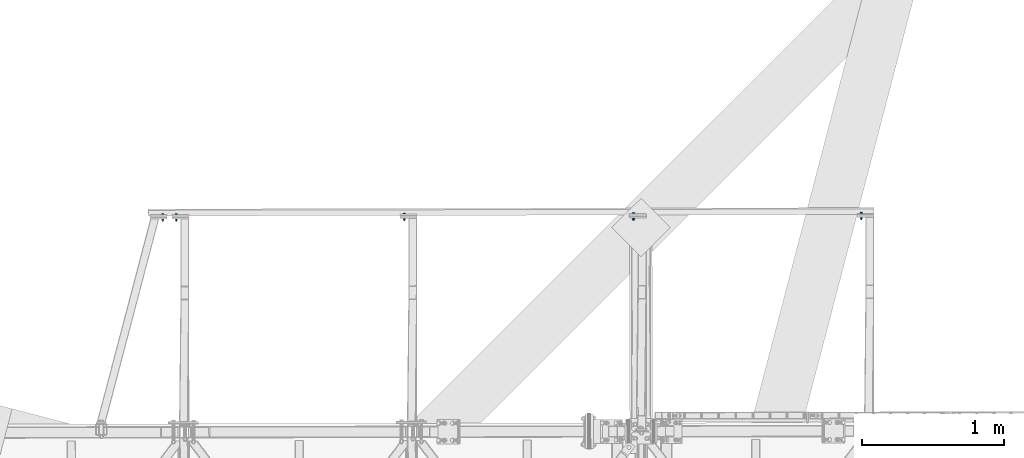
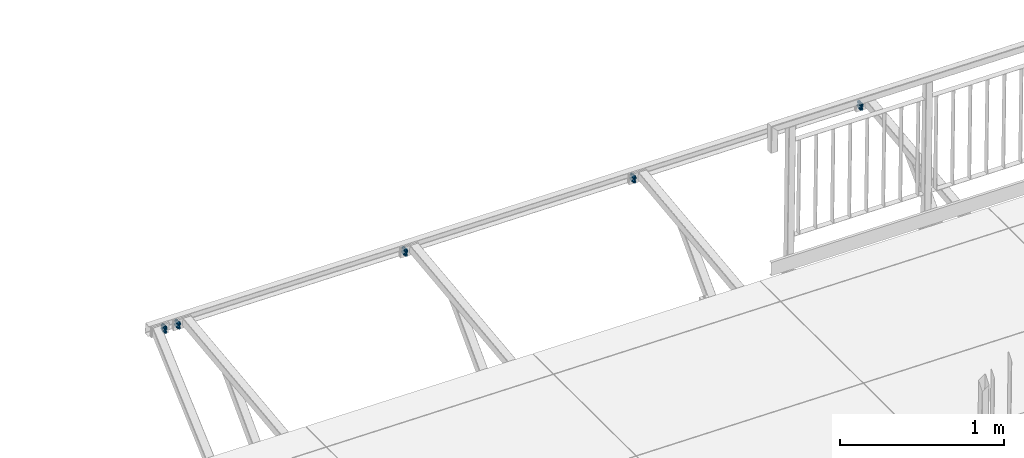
# One storey, part 167 of 169: 5 mechanical fasteners, 5 elements without a shape of their own.
"""IFC2X3 building model written with IfcOpenShell, lengths in millimetres."""

from ifc_helpers import new_model, si_unit, frame, frame_2d, origin_with_axes, origin_2d_with_axis, place, context, subcontext, project, spatial, polyline, circle_curve, parameter, trimmed, segment, composite_curve, circle, outline, extrude, source, transform, mapped, material, type_object, element, aggregate, save


model = new_model("IFC2X3")

# Units and contexts
model_context = context("Model", 3, precision=1e-05, world=origin_with_axes())
body_context = subcontext(model_context, "Body", "Model", "MODEL_VIEW")
ifc_project = project(units=[si_unit("LENGTHUNIT", "METRE", prefix="MILLI"), si_unit("AREAUNIT", "SQUARE_METRE"), si_unit("VOLUMEUNIT", "CUBIC_METRE"), si_unit("MASSUNIT", "GRAM", prefix="KILO"), si_unit("TIMEUNIT", "SECOND"), si_unit("PLANEANGLEUNIT", "RADIAN"), si_unit("SOLIDANGLEUNIT", "STERADIAN"), si_unit("THERMODYNAMICTEMPERATUREUNIT", "DEGREE_CELSIUS"), si_unit("LUMINOUSINTENSITYUNIT", "LUMEN")], contexts=[model_context])

# Site, building, storey
site_placement = place(None, origin_with_axes())
site = spatial("IfcSite", under=ifc_project, at=site_placement, Name="Undefined", CompositionType="ELEMENT")
building_placement = place(site_placement, origin_with_axes())
building = spatial("IfcBuilding", under=site, at=building_placement, Name="Undefined", CompositionType="ELEMENT")
storey_placement = place(building_placement, origin_with_axes())
storey = spatial("IfcBuildingStorey", under=building, at=storey_placement, Name="Undefined", CompositionType="ELEMENT", Elevation=0.0)

# Assembly, mechanical fastener
assembly_1_placement = place(storey_placement, origin_with_axes())
assembly_1 = element("IfcElementAssembly", 1, at=assembly_1_placement, inside=storey, Name="Steel Assembly", AssemblyPlace="NOTDEFINED", PredefinedType="RIGID_FRAME")
ifc_material = material(Name="Undefined")
discrete_accessory_type = type_object("IfcDiscreteAccessoryType", Name="Bolt assembly")
shared_shape_1 = source(origin_with_axes(), body_context, "Body", "SweptSolid", [
    extrude(circle(Radius=7.5, at=origin_2d_with_axis()), frame((0.0, -10.3999999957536, 0.0), z_axis=(0.0, 1.0, 0.0), x_axis=(1.0, 0.0, 0.0)), (0.0, 0.0, 1.0), 10.0),
    extrude(outline(composite_curve([segment(polyline([(7.5, 7.5), (7.5, -7.5)]), True, "CONTINUOUS"), segment(trimmed(circle_curve(frame_2d((0.0, -7.5), x_axis=(1.0, 0.0)), 7.5), [parameter(0.0)], [parameter(3.14159265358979)], False, "PARAMETER"), True, "CONTINUOUS"), segment(polyline([(-7.5, -7.5), (-7.5, 7.5)]), True, "CONTINUOUS"), segment(trimmed(circle_curve(frame_2d((0.0, 7.5), x_axis=(-1.0, 0.0)), 7.5), [parameter(0.0)], [parameter(3.14159265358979)], False, "PARAMETER"), True, "DISCONTINUOUS")], self_intersect=False)), frame((0.0, 0.400000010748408, 0.0), z_axis=(0.0, 1.0, 0.0), x_axis=(1.0, 0.0, 0.0)), (0.0, 0.0, 1.0), 10.1),
    extrude(outline(polyline([(10.39230484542, 0.0), (5.19615242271, 9.00000000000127), (-5.19615242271, 9.00000000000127), (-10.39230484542, 0.0), (-5.19615242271, -9.00000000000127), (5.19615242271, -9.00000000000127), (10.39230484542, 0.0)])), frame((0.0, -20.9999999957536, 0.0), z_axis=(0.0, 1.0, 0.0), x_axis=(1.0, 0.0, 0.0)), (0.0, 0.0, 1.0), 7.5),
    extrude(circle(Radius=6.0, at=origin_2d_with_axis()), frame((0.0, -13.4999999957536, 0.0), z_axis=(0.0, 1.0, 0.0), x_axis=(1.0, 0.0, 0.0)), (0.0, 0.0, 1.0), 45.0),
    extrude(circle(Radius=12.0, at=origin_2d_with_axis()), frame((0.0, -13.4999999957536, 0.0), z_axis=(0.0, 1.0, 0.0), x_axis=(1.0, 0.0, 0.0)), (0.0, 0.0, 1.0), 3.0),
    extrude(circle(Radius=12.0, at=origin_2d_with_axis()), frame((0.0, 10.500000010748, 0.0), z_axis=(0.0, 1.0, 0.0), x_axis=(1.0, 0.0, 0.0)), (0.0, 0.0, 1.0), 3.0),
    extrude(outline(polyline([(10.96965511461, 0.0), (5.484827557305, 9.50000000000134), (-5.484827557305, 9.50000000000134), (-10.96965511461, 0.0), (-5.484827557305, -9.50000000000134), (5.484827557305, -9.50000000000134), (10.96965511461, 0.0)])), frame((0.0, 13.500000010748, 0.0), z_axis=(0.0, 1.0, 0.0), x_axis=(1.0, 0.0, 0.0)), (0.0, 0.0, 1.0), 10.0),
])
mechanical_fastener_1_placement = place(assembly_1_placement, frame((6126.03816421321, 3765.11440507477, 13915.3565940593), z_axis=(-0.999917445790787, -0.00186469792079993, 0.0127131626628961), x_axis=(-0.0128442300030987, 0.117575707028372, -0.992980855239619)))
mechanical_fastener_1 = element("IfcMechanicalFastener", 2, at=mechanical_fastener_1_placement, type_object=discrete_accessory_type, material=ifc_material, Name="Bolt assembly", NominalDiameter=12.0, NominalLength=45.0, context=body_context, shape_type="MappedRepresentation", body=[
    mapped(shared_shape_1, transform((35.0000000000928, 4.54747350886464e-11, 60.0000000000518))),
    mapped(shared_shape_1, transform((65.0000000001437, 6.18456397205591e-11, 60.0000000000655))),
])
aggregate(assembly_1, [mechanical_fastener_1])

assembly_2_placement = place(storey_placement, origin_with_axes())
assembly_2 = element("IfcElementAssembly", 3, at=assembly_2_placement, inside=storey, Name="Steel Assembly", AssemblyPlace="NOTDEFINED", PredefinedType="RIGID_FRAME")
shared_shape_2 = source(origin_with_axes(), body_context, "Body", "SweptSolid", [
    extrude(circle(Radius=7.5, at=origin_2d_with_axis()), frame((0.0, -10.3999999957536, 0.0), z_axis=(0.0, 1.0, 0.0), x_axis=(1.0, 0.0, 0.0)), (0.0, 0.0, 1.0), 10.0),
    extrude(outline(composite_curve([segment(polyline([(7.5, 7.5), (7.5, -7.5)]), True, "CONTINUOUS"), segment(trimmed(circle_curve(frame_2d((0.0, -7.5), x_axis=(1.0, 0.0)), 7.5), [parameter(0.0)], [parameter(3.14159265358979)], False, "PARAMETER"), True, "CONTINUOUS"), segment(polyline([(-7.5, -7.5), (-7.5, 7.5)]), True, "CONTINUOUS"), segment(trimmed(circle_curve(frame_2d((0.0, 7.5), x_axis=(-1.0, 0.0)), 7.5), [parameter(0.0)], [parameter(3.14159265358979)], False, "PARAMETER"), True, "DISCONTINUOUS")], self_intersect=False)), frame((0.0, 0.400000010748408, 0.0), z_axis=(0.0, 1.0, 0.0), x_axis=(1.0, 0.0, 0.0)), (0.0, 0.0, 1.0), 10.1),
    extrude(outline(polyline([(10.39230484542, 0.0), (5.19615242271, 9.00000000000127), (-5.19615242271, 9.00000000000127), (-10.39230484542, 0.0), (-5.19615242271, -9.00000000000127), (5.19615242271, -9.00000000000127), (10.39230484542, 0.0)])), frame((0.0, -20.9999999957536, 0.0), z_axis=(0.0, 1.0, 0.0), x_axis=(1.0, 0.0, 0.0)), (0.0, 0.0, 1.0), 7.5),
    extrude(circle(Radius=6.0, at=origin_2d_with_axis()), frame((0.0, -13.4999999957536, 0.0), z_axis=(0.0, 1.0, 0.0), x_axis=(1.0, 0.0, 0.0)), (0.0, 0.0, 1.0), 45.0),
    extrude(circle(Radius=12.0, at=origin_2d_with_axis()), frame((0.0, -13.4999999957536, 0.0), z_axis=(0.0, 1.0, 0.0), x_axis=(1.0, 0.0, 0.0)), (0.0, 0.0, 1.0), 3.0),
    extrude(circle(Radius=12.0, at=origin_2d_with_axis()), frame((0.0, 10.500000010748, 0.0), z_axis=(0.0, 1.0, 0.0), x_axis=(1.0, 0.0, 0.0)), (0.0, 0.0, 1.0), 3.0),
    extrude(outline(polyline([(10.96965511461, 0.0), (5.484827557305, 9.50000000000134), (-5.484827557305, 9.50000000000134), (-10.96965511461, 0.0), (-5.484827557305, -9.50000000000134), (5.484827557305, -9.50000000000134), (10.96965511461, 0.0)])), frame((0.0, 13.500000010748, 0.0), z_axis=(0.0, 1.0, 0.0), x_axis=(1.0, 0.0, 0.0)), (0.0, 0.0, 1.0), 10.0),
])
mechanical_fastener_2_placement = place(assembly_2_placement, frame((4515.17115900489, 3762.11037659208, 13935.8374980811), z_axis=(-0.999917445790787, -0.00186469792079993, 0.0127131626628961), x_axis=(-0.0128442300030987, 0.117575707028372, -0.992980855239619)))
mechanical_fastener_2 = element("IfcMechanicalFastener", 4, at=mechanical_fastener_2_placement, type_object=discrete_accessory_type, material=ifc_material, Name="Bolt assembly", NominalDiameter=12.0, NominalLength=45.0, context=body_context, shape_type="MappedRepresentation", body=[
    mapped(shared_shape_2, transform((35.0000000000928, 4.54747350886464e-11, 60.0000000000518))),
    mapped(shared_shape_2, transform((65.0000000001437, 6.18456397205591e-11, 60.0000000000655))),
])
aggregate(assembly_2, [mechanical_fastener_2])

assembly_3_placement = place(storey_placement, origin_with_axes())
assembly_3 = element("IfcElementAssembly", 5, at=assembly_3_placement, inside=storey, Name="Steel Assembly", AssemblyPlace="NOTDEFINED", PredefinedType="RIGID_FRAME")
shared_shape_3 = source(origin_with_axes(), body_context, "Body", "SweptSolid", [
    extrude(circle(Radius=7.5, at=origin_2d_with_axis()), frame((0.0, -10.3999999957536, 0.0), z_axis=(0.0, 1.0, 0.0), x_axis=(1.0, 0.0, 0.0)), (0.0, 0.0, 1.0), 10.0),
    extrude(outline(composite_curve([segment(polyline([(7.5, 7.5), (7.5, -7.5)]), True, "CONTINUOUS"), segment(trimmed(circle_curve(frame_2d((0.0, -7.5), x_axis=(1.0, 0.0)), 7.5), [parameter(0.0)], [parameter(3.14159265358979)], False, "PARAMETER"), True, "CONTINUOUS"), segment(polyline([(-7.5, -7.5), (-7.5, 7.5)]), True, "CONTINUOUS"), segment(trimmed(circle_curve(frame_2d((0.0, 7.5), x_axis=(-1.0, 0.0)), 7.5), [parameter(0.0)], [parameter(3.14159265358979)], False, "PARAMETER"), True, "DISCONTINUOUS")], self_intersect=False)), frame((0.0, 0.400000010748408, 0.0), z_axis=(0.0, 1.0, 0.0), x_axis=(1.0, 0.0, 0.0)), (0.0, 0.0, 1.0), 10.1),
    extrude(outline(polyline([(10.39230484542, 0.0), (5.19615242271, 9.00000000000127), (-5.19615242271, 9.00000000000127), (-10.39230484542, 0.0), (-5.19615242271, -9.00000000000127), (5.19615242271, -9.00000000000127), (10.39230484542, 0.0)])), frame((0.0, -20.9999999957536, 0.0), z_axis=(0.0, 1.0, 0.0), x_axis=(1.0, 0.0, 0.0)), (0.0, 0.0, 1.0), 7.5),
    extrude(circle(Radius=6.0, at=origin_2d_with_axis()), frame((0.0, -13.4999999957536, 0.0), z_axis=(0.0, 1.0, 0.0), x_axis=(1.0, 0.0, 0.0)), (0.0, 0.0, 1.0), 45.0),
    extrude(circle(Radius=12.0, at=origin_2d_with_axis()), frame((0.0, -13.4999999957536, 0.0), z_axis=(0.0, 1.0, 0.0), x_axis=(1.0, 0.0, 0.0)), (0.0, 0.0, 1.0), 3.0),
    extrude(circle(Radius=12.0, at=origin_2d_with_axis()), frame((0.0, 10.500000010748, 0.0), z_axis=(0.0, 1.0, 0.0), x_axis=(1.0, 0.0, 0.0)), (0.0, 0.0, 1.0), 3.0),
    extrude(outline(polyline([(10.96965511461, 0.0), (5.484827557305, 9.50000000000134), (-5.484827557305, 9.50000000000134), (-10.96965511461, 0.0), (-5.484827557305, -9.50000000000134), (5.484827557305, -9.50000000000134), (10.96965511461, 0.0)])), frame((0.0, 13.500000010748, 0.0), z_axis=(0.0, 1.0, 0.0), x_axis=(1.0, 0.0, 0.0)), (0.0, 0.0, 1.0), 10.0),
])
mechanical_fastener_3_placement = place(assembly_3_placement, frame((7726.38834744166, 3768.09882114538, 13895.0094039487), z_axis=(-0.999917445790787, -0.00186469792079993, 0.0127131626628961), x_axis=(-0.0128442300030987, 0.117575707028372, -0.992980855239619)))
mechanical_fastener_3 = element("IfcMechanicalFastener", 6, at=mechanical_fastener_3_placement, type_object=discrete_accessory_type, material=ifc_material, Name="Bolt assembly", NominalDiameter=12.0, NominalLength=45.0, context=body_context, shape_type="MappedRepresentation", body=[
    mapped(shared_shape_3, transform((35.0000000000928, 4.54747350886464e-11, 60.0000000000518))),
    mapped(shared_shape_3, transform((65.0000000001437, 6.18456397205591e-11, 60.0000000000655))),
])
aggregate(assembly_3, [mechanical_fastener_3])

assembly_4_placement = place(storey_placement, origin_with_axes())
assembly_4 = element("IfcElementAssembly", 7, at=assembly_4_placement, inside=storey, Name="Steel Assembly", AssemblyPlace="NOTDEFINED", PredefinedType="RIGID_FRAME")
shared_shape_4 = source(origin_with_axes(), body_context, "Body", "SweptSolid", [
    extrude(circle(Radius=7.5, at=origin_2d_with_axis()), frame((0.0, -10.3999999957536, 0.0), z_axis=(0.0, 1.0, 0.0), x_axis=(1.0, 0.0, 0.0)), (0.0, 0.0, 1.0), 10.0),
    extrude(outline(composite_curve([segment(polyline([(7.5, 7.5), (7.5, -7.5)]), True, "CONTINUOUS"), segment(trimmed(circle_curve(frame_2d((0.0, -7.5), x_axis=(1.0, 0.0)), 7.5), [parameter(0.0)], [parameter(3.14159265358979)], False, "PARAMETER"), True, "CONTINUOUS"), segment(polyline([(-7.5, -7.5), (-7.5, 7.5)]), True, "CONTINUOUS"), segment(trimmed(circle_curve(frame_2d((0.0, 7.5), x_axis=(-1.0, 0.0)), 7.5), [parameter(0.0)], [parameter(3.14159265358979)], False, "PARAMETER"), True, "DISCONTINUOUS")], self_intersect=False)), frame((0.0, 0.400000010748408, 0.0), z_axis=(0.0, 1.0, 0.0), x_axis=(1.0, 0.0, 0.0)), (0.0, 0.0, 1.0), 10.1),
    extrude(outline(polyline([(10.39230484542, 0.0), (5.19615242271, 9.00000000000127), (-5.19615242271, 9.00000000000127), (-10.39230484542, 0.0), (-5.19615242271, -9.00000000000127), (5.19615242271, -9.00000000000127), (10.39230484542, 0.0)])), frame((0.0, -20.9999999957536, 0.0), z_axis=(0.0, 1.0, 0.0), x_axis=(1.0, 0.0, 0.0)), (0.0, 0.0, 1.0), 7.5),
    extrude(circle(Radius=6.0, at=origin_2d_with_axis()), frame((0.0, -13.4999999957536, 0.0), z_axis=(0.0, 1.0, 0.0), x_axis=(1.0, 0.0, 0.0)), (0.0, 0.0, 1.0), 45.0),
    extrude(circle(Radius=12.0, at=origin_2d_with_axis()), frame((0.0, -13.4999999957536, 0.0), z_axis=(0.0, 1.0, 0.0), x_axis=(1.0, 0.0, 0.0)), (0.0, 0.0, 1.0), 3.0),
    extrude(circle(Radius=12.0, at=origin_2d_with_axis()), frame((0.0, 10.500000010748, 0.0), z_axis=(0.0, 1.0, 0.0), x_axis=(1.0, 0.0, 0.0)), (0.0, 0.0, 1.0), 3.0),
    extrude(outline(polyline([(10.96965511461, 0.0), (5.484827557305, 9.50000000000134), (-5.484827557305, 9.50000000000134), (-10.96965511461, 0.0), (-5.484827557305, -9.50000000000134), (5.484827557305, -9.50000000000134), (10.96965511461, 0.0)])), frame((0.0, 13.500000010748, 0.0), z_axis=(0.0, 1.0, 0.0), x_axis=(1.0, 0.0, 0.0)), (0.0, 0.0, 1.0), 10.0),
])
mechanical_fastener_4_placement = place(assembly_4_placement, frame((2702.29146176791, 3758.69743935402, 13959.1586405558), z_axis=(-0.999917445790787, -0.00186469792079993, 0.0127131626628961), x_axis=(-0.0128442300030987, 0.117575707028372, -0.992980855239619)))
mechanical_fastener_4 = element("IfcMechanicalFastener", 8, at=mechanical_fastener_4_placement, type_object=discrete_accessory_type, material=ifc_material, Name="Bolt assembly", NominalDiameter=12.0, NominalLength=45.0, context=body_context, shape_type="MappedRepresentation", body=[
    mapped(shared_shape_4, transform((34.9868049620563, 7.6397554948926e-11, -55.99123382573))),
    mapped(shared_shape_4, transform((64.98680114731, 1.22781784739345e-10, -55.9912338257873))),
])
aggregate(assembly_4, [mechanical_fastener_4])

assembly_5_placement = place(storey_placement, origin_with_axes())
assembly_5 = element("IfcElementAssembly", 9, at=assembly_5_placement, inside=storey, Name="Steel Assembly", AssemblyPlace="NOTDEFINED", PredefinedType="RIGID_FRAME")
shared_shape_5 = source(origin_with_axes(), body_context, "Body", "SweptSolid", [
    extrude(circle(Radius=7.5, at=origin_2d_with_axis()), frame((0.0, -10.3999999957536, 0.0), z_axis=(0.0, 1.0, 0.0), x_axis=(1.0, 0.0, 0.0)), (0.0, 0.0, 1.0), 10.0),
    extrude(outline(composite_curve([segment(polyline([(7.5, 7.5), (7.5, -7.5)]), True, "CONTINUOUS"), segment(trimmed(circle_curve(frame_2d((0.0, -7.5), x_axis=(1.0, 0.0)), 7.5), [parameter(0.0)], [parameter(3.14159265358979)], False, "PARAMETER"), True, "CONTINUOUS"), segment(polyline([(-7.5, -7.5), (-7.5, 7.5)]), True, "CONTINUOUS"), segment(trimmed(circle_curve(frame_2d((0.0, 7.5), x_axis=(-1.0, 0.0)), 7.5), [parameter(0.0)], [parameter(3.14159265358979)], False, "PARAMETER"), True, "DISCONTINUOUS")], self_intersect=False)), frame((0.0, 0.400000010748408, 0.0), z_axis=(0.0, 1.0, 0.0), x_axis=(1.0, 0.0, 0.0)), (0.0, 0.0, 1.0), 10.1),
    extrude(outline(polyline([(10.39230484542, 0.0), (5.19615242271, 9.00000000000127), (-5.19615242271, 9.00000000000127), (-10.39230484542, 0.0), (-5.19615242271, -9.00000000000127), (5.19615242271, -9.00000000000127), (10.39230484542, 0.0)])), frame((0.0, -20.9999999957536, 0.0), z_axis=(0.0, 1.0, 0.0), x_axis=(1.0, 0.0, 0.0)), (0.0, 0.0, 1.0), 7.5),
    extrude(circle(Radius=6.0, at=origin_2d_with_axis()), frame((0.0, -13.4999999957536, 0.0), z_axis=(0.0, 1.0, 0.0), x_axis=(1.0, 0.0, 0.0)), (0.0, 0.0, 1.0), 45.0),
    extrude(circle(Radius=12.0, at=origin_2d_with_axis()), frame((0.0, -13.4999999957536, 0.0), z_axis=(0.0, 1.0, 0.0), x_axis=(1.0, 0.0, 0.0)), (0.0, 0.0, 1.0), 3.0),
    extrude(circle(Radius=12.0, at=origin_2d_with_axis()), frame((0.0, 10.500000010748, 0.0), z_axis=(0.0, 1.0, 0.0), x_axis=(1.0, 0.0, 0.0)), (0.0, 0.0, 1.0), 3.0),
    extrude(outline(polyline([(10.96965511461, 0.0), (5.484827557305, 9.50000000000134), (-5.484827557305, 9.50000000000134), (-10.96965511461, 0.0), (-5.484827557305, -9.50000000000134), (5.484827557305, -9.50000000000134), (10.96965511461, 0.0)])), frame((0.0, 13.500000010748, 0.0), z_axis=(0.0, 1.0, 0.0), x_axis=(1.0, 0.0, 0.0)), (0.0, 0.0, 1.0), 10.0),
])
mechanical_fastener_5_placement = place(assembly_5_placement, frame((2913.78802657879, 3759.12403419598, 13956.1978217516), z_axis=(-0.999917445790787, -0.00186469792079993, 0.0127131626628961), x_axis=(-0.0128442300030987, 0.117575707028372, -0.992980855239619)))
mechanical_fastener_5 = element("IfcMechanicalFastener", 10, at=mechanical_fastener_5_placement, type_object=discrete_accessory_type, material=ifc_material, Name="Bolt assembly", NominalDiameter=12.0, NominalLength=45.0, context=body_context, shape_type="MappedRepresentation", body=[
    mapped(shared_shape_5, transform((35.0000000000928, 4.54747350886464e-11, 60.0000000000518))),
    mapped(shared_shape_5, transform((65.0000000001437, 6.18456397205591e-11, 60.0000000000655))),
])
aggregate(assembly_5, [mechanical_fastener_5])

save(model, "model.ifc")
